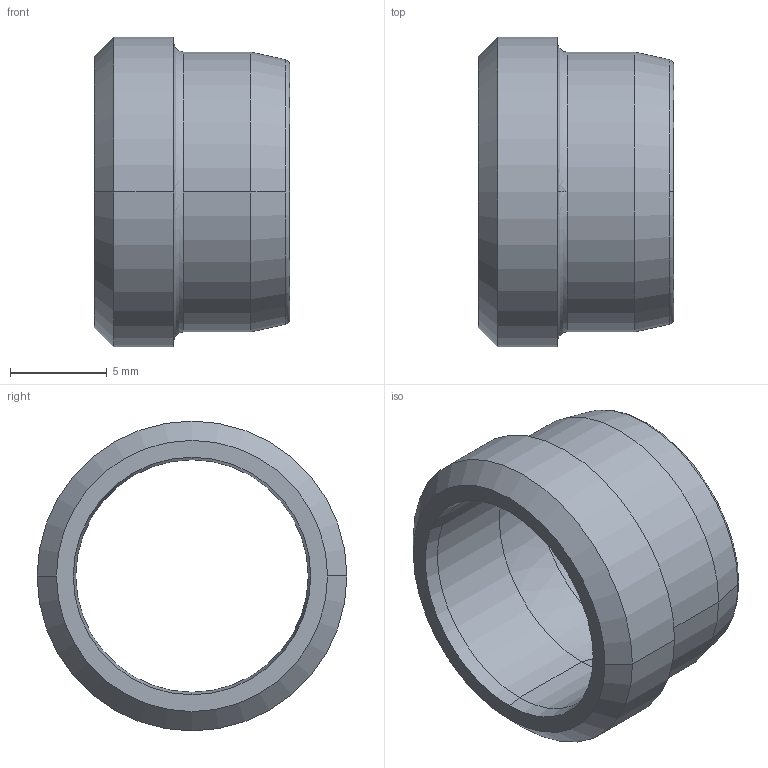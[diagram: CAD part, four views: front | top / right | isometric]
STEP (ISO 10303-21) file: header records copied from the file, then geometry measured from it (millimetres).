
FILE_DESCRIPTION((''),'2;1');
FILE_NAME('100107.stp','2006-03-06T15:07:32',('Dario Falcomer'),('CAST S.p.A.'),'AutoCAD STEP 2000i','AutoCAD 2000i',', , ');
FILE_SCHEMA(('CONFIG_CONTROL_DESIGN'));
Length unit declared in the file: millimetre
Products named in the file (2): 100107.0; 1001ESTERNO#0
Assembly tree (1 placements, depth 2):
  100107.0
    1001ESTERNO#0
Bounding box: 10.07 x 16 x 16 mm (x, y, z)
Volume: 583.4 mm3; surface area: 985.1 mm2
Topology: 1 solids, 1 shells, 28 faces, 67 edges, 43 vertices
Faces by surface type: bspline 8, cone 8, cylinder 6, plane 4, torus 2
Entity records: 1241 total; most frequent: CARTESIAN_POINT 456, DIRECTION 164, ORIENTED_EDGE 134, AXIS2_PLACEMENT_3D 75, EDGE_CURVE 67, CIRCLE 53, VERTEX_POINT 43, EDGE_LOOP 32
